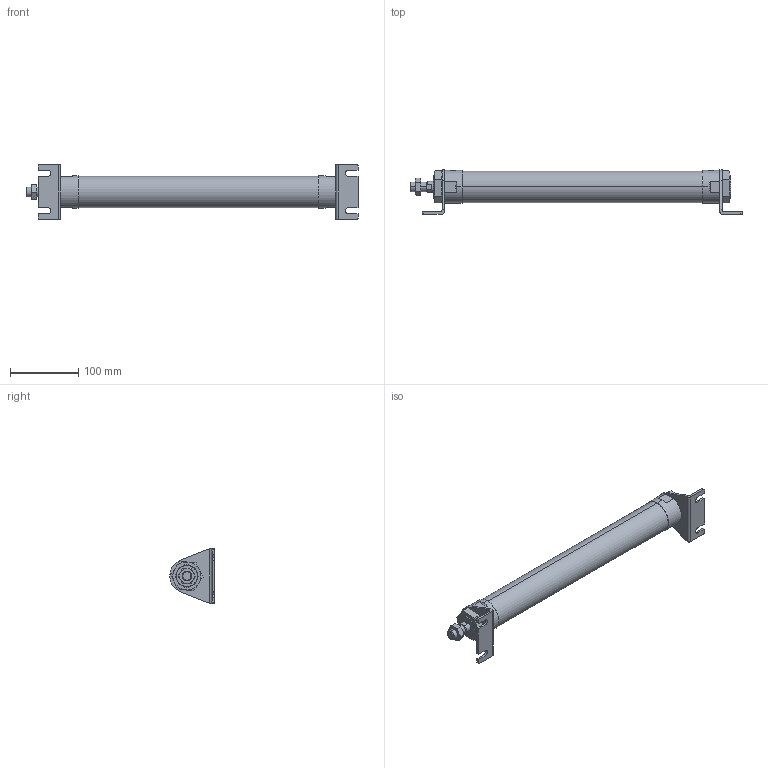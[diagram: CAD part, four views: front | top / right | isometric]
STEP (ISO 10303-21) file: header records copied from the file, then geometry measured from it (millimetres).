
FILE_DESCRIPTION (( 'STEP AP203' ), '1' );
FILE_NAME ('J#2-40-300-L.STEP', '2016-03-10T01:09:25', ( '' ), ( '' ), 'SwSTEP 2.0', 'SolidWorks 2014', '' );
FILE_SCHEMA (( 'CONFIG_CONTROL_DESIGN' ));
Length unit declared in the file: millimetre
Products named in the file (5): J#2-40-300; J#2-40-L; J#2-40-300-L
Assembly tree (6 placements, depth 2):
  J#2-40-300-L
    J#2-40-300
    (unnamed)
    (unnamed)  x2
    J#2-40-L  x2
Bounding box: 485.2 x 65 x 80 mm (x, y, z)
Volume: 755374.1 mm3; surface area: 99940.4 mm2
Topology: 6 solids, 6 shells, 170 faces, 404 edges, 249 vertices
Faces by surface type: plane 71, cylinder 48, torus 36, cone 15
Entity records: 4463 total; most frequent: CARTESIAN_POINT 1173, DIRECTION 578, ORIENTED_EDGE 558, EDGE_CURVE 279, AXIS2_PLACEMENT_3D 232, VERTEX_POINT 173, EDGE_LOOP 134, FACE_OUTER_BOUND 121
